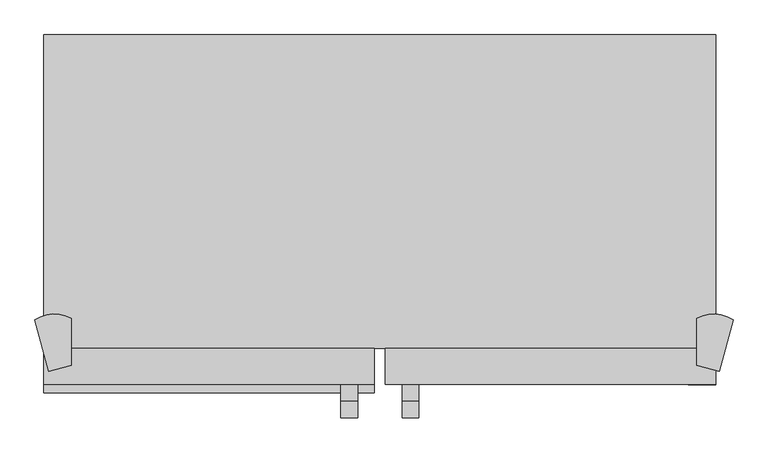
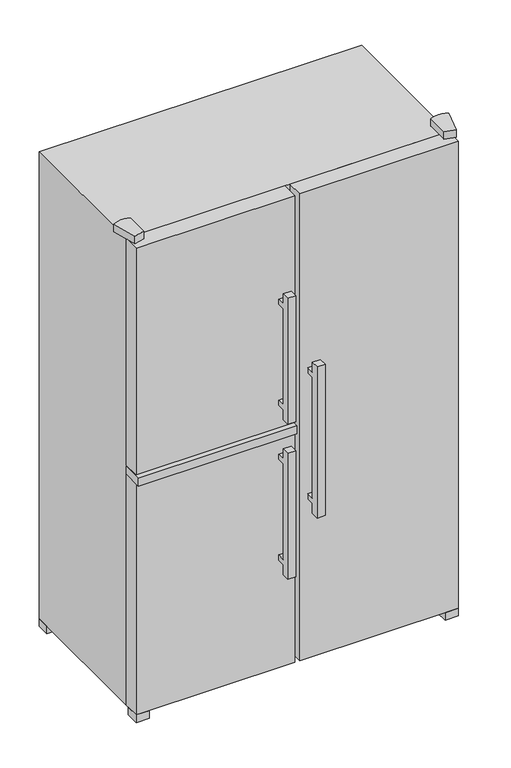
"""IFC4 building model written with IfcOpenShell, lengths in millimetres: proxy geometry, SBSbs 7353, SBSes 7353 : SBSbs 7353."""

import ifcopenshell
import ifcopenshell.guid

model = None  # the IFC model being written
_history = None  # IfcOwnerHistory: only IFC2X3 demands one
_inside = {}  # id of a spatial element -> (the spatial element, [elements in it])
_under = {}  # id of a project, library or spatial element -> (it, [spatial elements below it])
_declared = {}  # id of a project -> (the project, [libraries it declares])
_typed = {}  # id of a type object -> (the type object, [elements of that type])
_made_of = {}  # id of a material, layer set ... -> (it, [elements and type objects made of it])


def new_model(schema):
    """Start an empty IFC model of exactly this schema.

    Asked for "IFC4X3", IfcOpenShell would pick the latest addendum, in which some entities
    have other attributes; the version numbers below select the first issue.
    IFC2X3 requires an IfcOwnerHistory on every rooted entity: one is made here for all.
    """
    global model, _history
    if schema == "IFC4X3":
        model = ifcopenshell.file(schema_version=(4, 3, 0, 0))
    else:
        model = ifcopenshell.file(schema=schema)
    _inside.clear()
    _under.clear()
    _declared.clear()
    _typed.clear()
    _made_of.clear()
    _history = None
    if model.schema == "IFC2X3":
        org = make("IfcOrganization", Name="unknown")
        user = make(
            "IfcPersonAndOrganization",
            ThePerson=make("IfcPerson", FamilyName="unknown"),
            TheOrganization=org,
        )
        app = make(
            "IfcApplication",
            ApplicationDeveloper=org,
            Version="unknown",
            ApplicationFullName="unknown",
            ApplicationIdentifier="unknown",
        )
        _history = make(
            "IfcOwnerHistory",
            OwningUser=user,
            OwningApplication=app,
            ChangeAction="ADDED",
            CreationDate=0,
        )
    return model


def make(cls, **values):
    """One entity of the class cls with the attributes given. An attribute that is None is left unset."""
    return model.create_entity(
        cls, **{name: value for name, value in values.items() if value is not None}
    )


def rooted(cls, **values):
    """An entity with a GlobalId (a new one), such as an element, a storey or a relation."""
    return make(cls, GlobalId=ifcopenshell.guid.new(), OwnerHistory=_history, **values)


def si_unit(unit_type, name, prefix=None):
    """IfcSIUnit, for example si_unit("LENGTHUNIT", "METRE", prefix="MILLI")."""
    return make("IfcSIUnit", UnitType=unit_type, Prefix=prefix, Name=name)


def assignment(units):
    """IfcUnitAssignment: the units of a project."""
    return None if units is None else make("IfcUnitAssignment", Units=units)


def point(xyz):
    """IfcCartesianPoint."""
    return None if xyz is None else make("IfcCartesianPoint", Coordinates=xyz)


def direction(xyz):
    """IfcDirection."""
    return None if xyz is None else make("IfcDirection", DirectionRatios=xyz)


def frame(location, z_axis=None, x_axis=None):
    """IfcAxis2Placement3D, a coordinate frame: its origin and axes. An axis left out is left unset."""
    return make(
        "IfcAxis2Placement3D",
        Location=point(location),
        Axis=direction(z_axis),
        RefDirection=direction(x_axis),
    )


def frame_2d(location, x_axis=None):
    """IfcAxis2Placement2D, a coordinate frame in the plane: its origin and x axis."""
    return make(
        "IfcAxis2Placement2D", Location=point(location), RefDirection=direction(x_axis)
    )


def origin():
    """The frame at (0, 0, 0) with its axes left unset."""
    return frame((0.0, 0.0, 0.0))


def place(relative_to, where):
    """IfcLocalPlacement: puts the frame where relative to a parent placement (None: the world)."""
    return make(
        "IfcLocalPlacement", PlacementRelTo=relative_to, RelativePlacement=where
    )


def context(
    kind, dimensions, precision=None, world=None, true_north=None, identifier=None
):
    """IfcGeometricRepresentationContext, for example the 3D "Model" context."""
    return make(
        "IfcGeometricRepresentationContext",
        ContextIdentifier=identifier,
        ContextType=kind,
        CoordinateSpaceDimension=dimensions,
        Precision=precision,
        WorldCoordinateSystem=world,
        TrueNorth=true_north,
    )


def project(units=None, contexts=None):
    """IfcProject with its units and contexts."""
    return rooted(
        "IfcProject",
        Name="project",
        RepresentationContexts=contexts,
        UnitsInContext=assignment(units),
    )


def spatial(cls, under=None, at=None, **own):
    """A site, building, storey or space (cls), placed at a placement, below another one or the project."""
    s = rooted(cls, ObjectPlacement=at, **own)
    if under is not None:
        _under.setdefault(under.id(), (under, []))[1].append(s)
    return s


def polyline(points):
    """IfcPolyline through the points."""
    return make("IfcPolyline", Points=[point(p) for p in points])


def circle_curve(where, radius):
    """IfcCircle in the frame where."""
    return make("IfcCircle", Position=where, Radius=radius)


def trimmed(basis, trim1, trim2, sense, master):
    """IfcTrimmedCurve: the piece of a basis curve between two trims."""
    return make(
        "IfcTrimmedCurve",
        BasisCurve=basis,
        Trim1=trim1,
        Trim2=trim2,
        SenseAgreement=sense,
        MasterRepresentation=master,
    )


def segment(curve, same_sense, transition):
    """IfcCompositeCurveSegment."""
    return make(
        "IfcCompositeCurveSegment",
        Transition=transition,
        SameSense=same_sense,
        ParentCurve=curve,
    )


def composite_curve(segments, self_intersect=None):
    """IfcCompositeCurve: segments joined end to end."""
    return make("IfcCompositeCurve", Segments=segments, SelfIntersect=self_intersect)


def outline(outer, holes=None, kind="AREA"):
    """IfcArbitraryClosedProfileDef: a profile drawn as a closed curve; with holes, ...WithVoids."""
    if holes is None:
        return make("IfcArbitraryClosedProfileDef", ProfileType=kind, OuterCurve=outer)
    return make(
        "IfcArbitraryProfileDefWithVoids",
        ProfileType=kind,
        OuterCurve=outer,
        InnerCurves=holes,
    )


def extrude(swept, where, along, depth):
    """IfcExtrudedAreaSolid: the profile swept, set in the frame where, extruded along a direction by depth."""
    return make(
        "IfcExtrudedAreaSolid",
        SweptArea=swept,
        Position=where,
        ExtrudedDirection=direction(along),
        Depth=depth,
    )


def shape(context_of_items, identifier, shape_type, items):
    """IfcShapeRepresentation: the items that make up one representation, for example the "Body"."""
    return make(
        "IfcShapeRepresentation",
        ContextOfItems=context_of_items,
        RepresentationIdentifier=identifier,
        RepresentationType=shape_type,
        Items=items,
    )


def source(mapping_origin, context_of_items, identifier, shape_type, items):
    """IfcRepresentationMap: a shape defined once, which mapped items show again and again."""
    return make(
        "IfcRepresentationMap",
        MappingOrigin=mapping_origin,
        MappedRepresentation=shape(context_of_items, identifier, shape_type, items),
    )


def transform(
    local_origin,
    x_axis=None,
    y_axis=None,
    z_axis=None,
    scale=None,
    scale2=None,
    scale3=None,
    uniform=True,
):
    """IfcCartesianTransformationOperator3D, or its non-uniform kind. x_axis, y_axis, z_axis: its Axis1, 2, 3."""
    if uniform:
        return make(
            "IfcCartesianTransformationOperator3D",
            Axis1=direction(x_axis),
            Axis2=direction(y_axis),
            LocalOrigin=point(local_origin),
            Scale=scale,
            Axis3=direction(z_axis),
        )
    return make(
        "IfcCartesianTransformationOperator3DnonUniform",
        Axis1=direction(x_axis),
        Axis2=direction(y_axis),
        LocalOrigin=point(local_origin),
        Scale=scale,
        Axis3=direction(z_axis),
        Scale2=scale2,
        Scale3=scale3,
    )


def mapped(mapping_source, mapping_target):
    """IfcMappedItem: shows the shape of a source again, moved by a transform."""
    return make(
        "IfcMappedItem", MappingSource=mapping_source, MappingTarget=mapping_target
    )


def made_of(thing, what):
    """Note that an element or type object is made of a material, layer set ...; save() writes the relation."""
    if what is not None:
        _made_of.setdefault(what.id(), (what, []))[1].append(thing)
    return thing


def element(
    cls,
    number,
    at=None,
    inside=None,
    cuts=None,
    type_object=None,
    material=None,
    context=None,
    identifier="Body",
    shape_type=None,
    held_by="IfcProductDefinitionShape",
    body=None,
    shapes=None,
    **own,
):
    """One element of the class cls, such as IfcWall. Its Tag is "e" and its number.

    at: its placement. inside: the storey or other place that contains it. cuts: it is an
    opening in that element (IfcRelVoidsElement). A single representation is given by context,
    identifier, shape_type and body (its items); several are given by shapes. held_by: the class
    of the entity that holds the representations. save() writes the other relations.
    """
    e = rooted(cls, Tag="e%d" % number, ObjectPlacement=at, **own)
    if body is not None:
        shapes = [shape(context, identifier, shape_type, body)]
    if shapes is not None:
        e.Representation = make(held_by, Representations=shapes)
    if inside is not None:
        _inside.setdefault(inside.id(), (inside, []))[1].append(e)
    if cuts is not None:
        rooted(
            "IfcRelVoidsElement", RelatingBuildingElement=cuts, RelatedOpeningElement=e
        )
    if type_object is not None:
        _typed.setdefault(type_object.id(), (type_object, []))[1].append(e)
    return made_of(e, material)


def aggregate(whole, parts):
    """IfcRelAggregates: a whole, such as a stair, and the parts it consists of."""
    return rooted("IfcRelAggregates", RelatingObject=whole, RelatedObjects=parts)


def save(model, path):
    """Write the relations noted so far, then the file.

    IfcRelAggregates (storeys below a building ...), IfcRelContainedInSpatialStructure (elements
    in a storey), IfcRelDefinesByType, IfcRelAssociatesMaterial and IfcRelDeclares: one each for
    every whole, place, type object, material and project.
    """
    for whole, parts in _under.values():
        aggregate(whole, parts)
    for where, things in _inside.values():
        rooted(
            "IfcRelContainedInSpatialStructure",
            RelatedElements=things,
            RelatingStructure=where,
        )
    for kind, things in _typed.values():
        rooted("IfcRelDefinesByType", RelatedObjects=things, RelatingType=kind)
    for what, things in _made_of.values():
        rooted("IfcRelAssociatesMaterial", RelatedObjects=things, RelatingMaterial=what)
    for by, libraries in _declared.values():
        rooted("IfcRelDeclares", RelatingContext=by, RelatedDefinitions=libraries)
    model.write(path)


def specialty_equipment_bd1fe556(model_context):
    return source(origin(), model_context, "Body", "SweptSolid", [
        extrude(outline(polyline([(210.0, -609.8345306), (210.0, -659.8345306), (160.0, -659.8345306), (160.0, -609.8345306), (210.0, -609.8345306)])), frame((0.0, 0.0, -915.1867483), z_axis=(0.0, 0.0, 1.0), x_axis=(1.0, 0.0, 0.0)), (0.0, 0.0, 1.0), 30.0),
        extrude(outline(polyline([(210.0, -29.8345306), (210.0, -79.8345306), (160.0, -79.8345306), (160.0, -29.8345306), (210.0, -29.8345306)])), frame((0.0, 0.0, -915.1867483), z_axis=(0.0, 0.0, 1.0), x_axis=(1.0, 0.0, 0.0)), (0.0, 0.0, 1.0), 30.0),
        extrude(outline(polyline([(-950.0, -29.8345306), (-950.0, -79.8345306), (-1000.0, -79.8345306), (-1000.0, -29.8345306), (-950.0, -29.8345306)])), frame((0.0, 0.0, -915.1867483), z_axis=(0.0, 0.0, 1.0), x_axis=(1.0, 0.0, 0.0)), (0.0, 0.0, 1.0), 30.0),
        extrude(outline(polyline([(-950.0, -609.8345306), (-950.0, -659.8345306), (-1000.0, -659.8345306), (-1000.0, -609.8345306), (-950.0, -609.8345306)])), frame((0.0, 0.0, -915.1867483), z_axis=(0.0, 0.0, 1.0), x_axis=(1.0, 0.0, 0.0)), (0.0, 0.0, 1.0), 30.0),
        extrude(outline(composite_curve([segment(polyline([(215.4751893, -636.3954664), (175.4211614, -625.663022), (175.4211614, -540.5856816)]), True, "CONTINUOUS"), segment(trimmed(circle_curve(frame_2d((205.8636246, -597.0484332)), 64.1465968), [point((175.4211614, -540.5856816))], [point((240.7822422, -543.2388055))], False, "CARTESIAN"), True, "CONTINUOUS"), segment(polyline([(240.7822422, -543.2388055), (215.4751893, -636.3954664)]), True, "CONTINUOUS")], self_intersect=False)), frame((0.0, 0.0, 966.8132517), z_axis=(0.0, 0.0, 1.0), x_axis=(1.0, 0.0, 0.0)), (0.0, 0.0, 1.0), 30.0),
        extrude(outline(composite_curve([segment(polyline([(-990.4751893, -636.3954664), (-1015.7822422, -543.2388055)]), True, "CONTINUOUS"), segment(trimmed(circle_curve(frame_2d((-980.8636246, -597.0484332)), 64.1465968), [point((-1015.7822422, -543.2388055))], [point((-950.4211614, -540.5856816))], False, "CARTESIAN"), True, "CONTINUOUS"), segment(polyline([(-950.4211614, -540.5856816), (-950.4211614, -625.663022), (-990.4751893, -636.3954664)]), True, "CONTINUOUS")], self_intersect=False)), frame((0.0, 0.0, 966.8132517), z_axis=(0.0, 0.0, 1.0), x_axis=(1.0, 0.0, 0.0)), (0.0, 0.0, 1.0), 30.0),
        extrude(outline(polyline([(-689.8345306, 266.8132517), (-659.8345306, 266.8132517), (-659.8345306, 246.8132517), (-689.8345306, 246.8132517), (-689.8345306, -233.1867483), (-659.8345306, -233.1867483), (-659.8345306, -253.1867483), (-689.8345306, -253.1867483), (-689.8345306, -293.1867483), (-719.8345306, -293.1867483), (-719.8345306, 306.8132517), (-689.8345306, 306.8132517), (-689.8345306, 266.8132517)])), frame((-355.0, 0.0, 0.0), z_axis=(1.0, 0.0, 0.0), x_axis=(0.0, 1.0, 0.0)), (0.0, 0.0, 1.0), 30.0),
        extrude(outline(polyline([(-689.8345306, -37.6867483), (-659.8345306, -37.6867483), (-659.8345306, -57.6867483), (-689.8345306, -57.6867483), (-689.8345306, -437.6867483), (-659.8345306, -437.6867483), (-659.8345306, -457.6867483), (-689.8345306, -457.6867483), (-689.8345306, -497.6867483), (-719.8345306, -497.6867483), (-719.8345306, 2.3132517), (-689.8345306, 2.3132517), (-689.8345306, -37.6867483)])), frame((-465.0, 0.0, 0.0), z_axis=(1.0, 0.0, 0.0), x_axis=(0.0, 1.0, 0.0)), (0.0, 0.0, 1.0), 30.0),
        extrude(outline(polyline([(-689.8345306, 577.1002065), (-659.8345306, 577.1002065), (-659.8345306, 557.1002065), (-689.8345306, 557.1002065), (-689.8345306, 177.1002065), (-659.8345306, 177.1002065), (-659.8345306, 157.1002065), (-689.8345306, 157.1002065), (-689.8345306, 117.1002065), (-719.8345306, 117.1002065), (-719.8345306, 617.1002065), (-689.8345306, 617.1002065), (-689.8345306, 577.1002065)])), frame((-465.0, 0.0, 0.0), z_axis=(1.0, 0.0, 0.0), x_axis=(0.0, 1.0, 0.0)), (0.0, 0.0, 1.0), 30.0),
        extrude(outline(polyline([(-405.0, -674.8345306), (-1000.0, -674.8345306), (-1000.0, -594.8345306), (-405.0, -594.8345306), (-405.0, -674.8345306)])), frame((0.0, 0.0, 32.3132517), z_axis=(0.0, 0.0, 1.0), x_axis=(1.0, 0.0, 0.0)), (0.0, 0.0, 1.0), 30.0),
        extrude(outline(polyline([(-405.0, -659.8345306), (-1000.0, -659.8345306), (-1000.0, -594.8345306), (-405.0, -594.8345306), (-405.0, -659.8345306)])), frame((0.0, 0.0, -885.1867483), z_axis=(0.0, 0.0, 1.0), x_axis=(1.0, 0.0, 0.0)), (0.0, 0.0, 1.0), 917.5),
        extrude(outline(polyline([(-405.0, -659.8345306), (-1000.0, -659.8345306), (-1000.0, -594.8345306), (-405.0, -594.8345306), (-405.0, -659.8345306)])), frame((0.0, 0.0, 67.1002065), z_axis=(0.0, 0.0, 1.0), x_axis=(1.0, 0.0, 0.0)), (0.0, 0.0, 1.0), 899.7130452),
        extrude(outline(polyline([(210.0, -659.8345306), (-385.0, -659.8345306), (-385.0, -594.8345306), (210.0, -594.8345306), (210.0, -659.8345306)])), frame((0.0, 0.0, -885.1867483), z_axis=(0.0, 0.0, 1.0), x_axis=(1.0, 0.0, 0.0)), (0.0, 0.0, 1.0), 1852.0),
        extrude(outline(polyline([(210.0, -594.8345306), (-1000.0, -594.8345306), (-1000.0, -29.8345306), (210.0, -29.8345306), (210.0, -594.8345306)])), frame((0.0, 0.0, -885.1867483), z_axis=(0.0, 0.0, 1.0), x_axis=(1.0, 0.0, 0.0)), (0.0, 0.0, 1.0), 1852.0),
    ])


if __name__ == "__main__":
    model = new_model("IFC4")
    model_context = context("Model", 3, world=origin())
    ifc_project = project(units=[si_unit("LENGTHUNIT", "METRE", prefix="MILLI")], contexts=[model_context])
    site = spatial("IfcSite", under=ifc_project)
    building = spatial("IfcBuilding", under=site)
    placement = place(None, origin())
    specialty_equipment_shape = specialty_equipment_bd1fe556(model_context)
    element("IfcBuildingElementProxy", 1, Name="SBSbs 7353, SBSes 7353 : SBSbs 7353", ObjectType="SBSbs 7353, SBSes 7353 : SBSbs 7353", at=placement, inside=building, context=model_context, shape_type="MappedRepresentation", body=[
        mapped(specialty_equipment_shape, transform((0.0, 0.0, 0.0), x_axis=(1.0, 0.0, 0.0), y_axis=(0.0, 1.0, 0.0), z_axis=(0.0, 0.0, 1.0))),
    ])
    save(model, "model.ifc")
